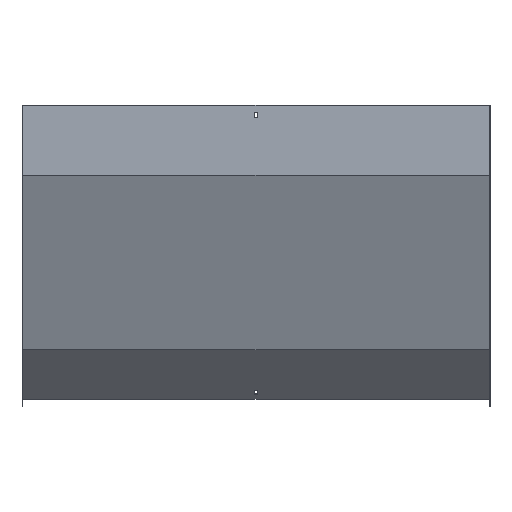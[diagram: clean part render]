
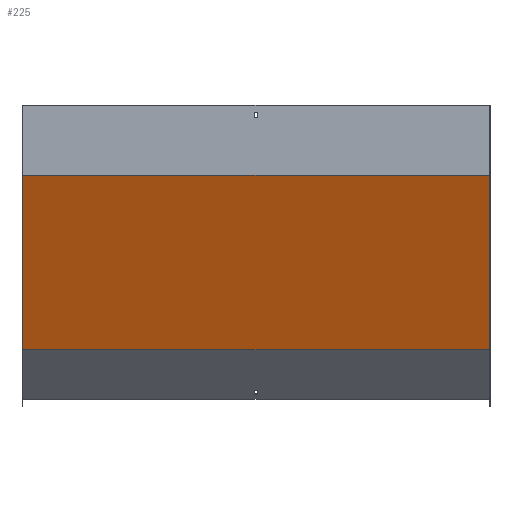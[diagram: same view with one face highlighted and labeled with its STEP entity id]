
A CAD part, front view. The second image highlights one B-rep face of the part: STEP entity #225.
In plain terms, the highlighted planar face has unit normal (0, -0.924, -0.383).
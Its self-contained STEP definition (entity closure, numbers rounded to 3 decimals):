
#15 = VECTOR ( 'NONE', #458, 1000. ) ;
#17 = DIRECTION ( 'NONE',  ( -1., 0., 0. ) ) ;
#34 = DIRECTION ( 'NONE',  ( 0., -0.383, 0.924 ) ) ;
#48 = CARTESIAN_POINT ( 'NONE',  ( 400., 122.335, -419.263 ) ) ;
#60 = ORIENTED_EDGE ( 'NONE', *, *, #314, .F. ) ;
#150 = EDGE_CURVE ( 'NONE', #183, #818, #477, .T. ) ;
#153 = VECTOR ( 'NONE', #740, 1000. ) ;
#183 = VERTEX_POINT ( 'NONE', #554 ) ;
#204 = EDGE_CURVE ( 'NONE', #818, #340, #415, .T. ) ;
#209 = CARTESIAN_POINT ( 'NONE',  ( -400., 122.335, -419.263 ) ) ;
#210 = VECTOR ( 'NONE', #17, 1000. ) ;
#225 = ADVANCED_FACE ( 'NONE', ( #364 ), #371, .F. ) ;
#229 = ORIENTED_EDGE ( 'NONE', *, *, #150, .T. ) ;
#280 = CARTESIAN_POINT ( 'NONE',  ( -400., -43.812, -18.148 ) ) ;
#299 = DIRECTION ( 'NONE',  ( 0., 0.924, 0.383 ) ) ;
#306 = AXIS2_PLACEMENT_3D ( 'NONE', #775, #299, #34 ) ;
#314 = EDGE_CURVE ( 'NONE', #183, #574, #850, .T. ) ;
#338 = LINE ( 'NONE', #730, #15 ) ;
#340 = VERTEX_POINT ( 'NONE', #209 ) ;
#355 = CARTESIAN_POINT ( 'NONE',  ( 401.5, -1.5, -120.298 ) ) ;
#364 = FACE_OUTER_BOUND ( 'NONE', #385, .T. ) ;
#371 = PLANE ( 'NONE',  #306 ) ;
#384 = VECTOR ( 'NONE', #660, 1000. ) ;
#385 = EDGE_LOOP ( 'NONE', ( #546, #771, #60, #229 ) ) ;
#415 = LINE ( 'NONE', #280, #153 ) ;
#458 = DIRECTION ( 'NONE',  ( -1., 0., 0. ) ) ;
#477 = LINE ( 'NONE', #355, #210 ) ;
#546 = ORIENTED_EDGE ( 'NONE', *, *, #204, .T. ) ;
#554 = CARTESIAN_POINT ( 'NONE',  ( 400., -1.5, -120.298 ) ) ;
#574 = VERTEX_POINT ( 'NONE', #48 ) ;
#660 = DIRECTION ( 'NONE',  ( 0., 0.383, -0.924 ) ) ;
#723 = CARTESIAN_POINT ( 'NONE',  ( 400., -43.812, -18.148 ) ) ;
#730 = CARTESIAN_POINT ( 'NONE',  ( 401.5, 122.335, -419.263 ) ) ;
#740 = DIRECTION ( 'NONE',  ( 0., 0.383, -0.924 ) ) ;
#771 = ORIENTED_EDGE ( 'NONE', *, *, #838, .F. ) ;
#775 = CARTESIAN_POINT ( 'NONE',  ( 401.5, -1.386, -120.574 ) ) ;
#818 = VERTEX_POINT ( 'NONE', #835 ) ;
#835 = CARTESIAN_POINT ( 'NONE',  ( -400., -1.5, -120.298 ) ) ;
#838 = EDGE_CURVE ( 'NONE', #574, #340, #338, .T. ) ;
#850 = LINE ( 'NONE', #723, #384 ) ;
